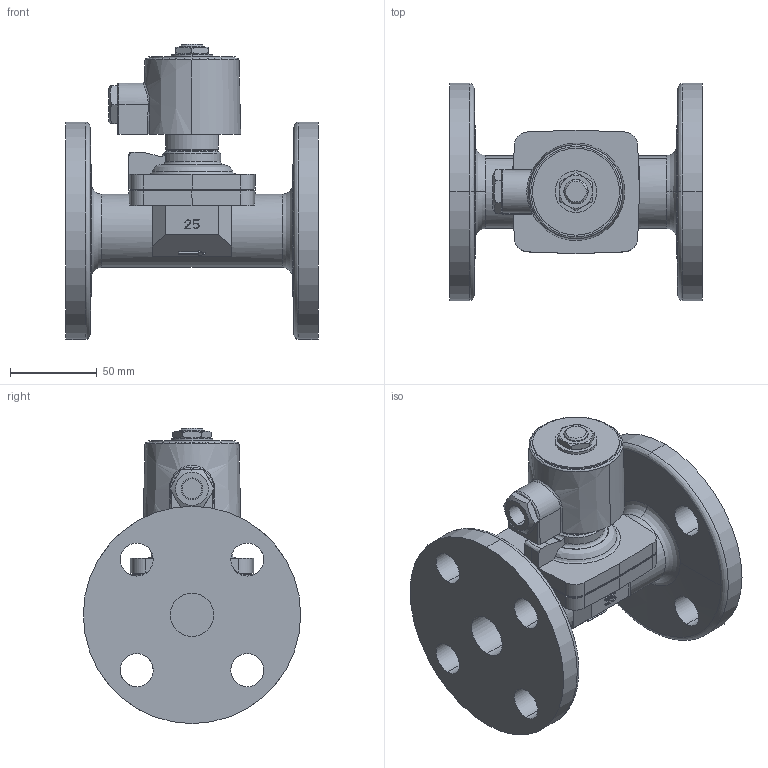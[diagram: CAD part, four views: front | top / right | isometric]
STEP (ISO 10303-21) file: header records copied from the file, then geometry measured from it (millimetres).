
FILE_DESCRIPTION( (''), '2;1');
FILE_NAME ('PC1056.13084.DP-200F(1B)_30800.stp','2024-07-19T13:37:59',(''),(''),'spGate 19.8.4 (****-****-****-****)','','');
FILE_SCHEMA (('AUTOMOTIVE_DESIGN'));
Length unit declared in the file: millimetre
Products named in the file (5): Assembly; DP200パイプ1Ｂ以下; ACコイル10A; コイル六角ナット座金; DP-200F(1B)本体
Assembly tree (4 placements, depth 2):
  Assembly
    DP200パイプ1Ｂ以下
    ACコイル10A
    コイル六角ナット座金
    DP-200F(1B)本体
Bounding box: 145 x 125 x 169.7 mm (x, y, z)
Volume: 675722.8 mm3; surface area: 125919.1 mm2
Topology: 4 solids, 4 shells, 349 faces, 864 edges, 547 vertices
Faces by surface type: plane 146, cylinder 102, bspline 101
Entity records: 20586 total; most frequent: CARTESIAN_POINT 6083, ORIENTED_EDGE 1728, DIRECTION 1341, COLOUR_RGB 1217, PRESENTATION_STYLE_ASSIGNMENT 1217, STYLED_ITEM 1217, EDGE_CURVE 864, DRAUGHTING_PRE_DEFINED_CURVE_FONT 864
